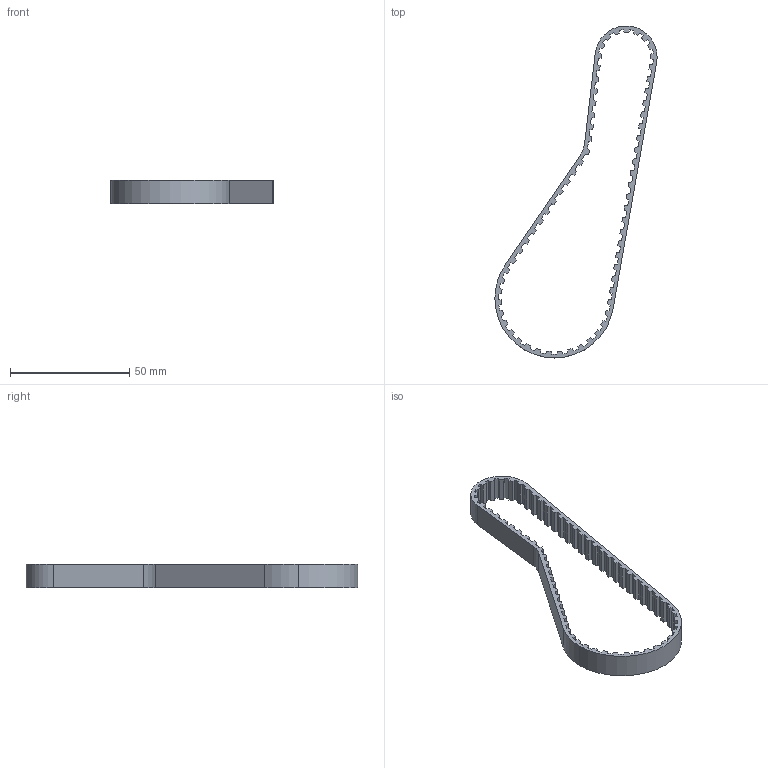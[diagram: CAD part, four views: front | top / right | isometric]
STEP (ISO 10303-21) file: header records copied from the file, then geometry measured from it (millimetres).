
FILE_DESCRIPTION (( 'STEP AP203' ), '1' );
FILE_NAME ('084.801.032.STEP', '2018-03-09T15:44:32', ( '' ), ( '' ), 'SwSTEP 2.0', 'SolidWorks 2016', '' );
FILE_SCHEMA (( 'CONFIG_CONTROL_DESIGN' ));
Length unit declared in the file: millimetre
Products named in the file (1): 084.801.032
Bounding box: 68 x 139.12 x 10 mm (x, y, z)
Volume: 6734.5 mm3; surface area: 9051.1 mm2
Topology: 1 solids, 1 shells, 283 faces, 843 edges, 562 vertices
Faces by surface type: plane 248, cylinder 35
Entity records: 9448 total; most frequent: CARTESIAN_POINT 1689, ORIENTED_EDGE 1686, DIRECTION 1481, EDGE_CURVE 843, VECTOR 773, LINE 773, VERTEX_POINT 562, AXIS2_PLACEMENT_3D 354
